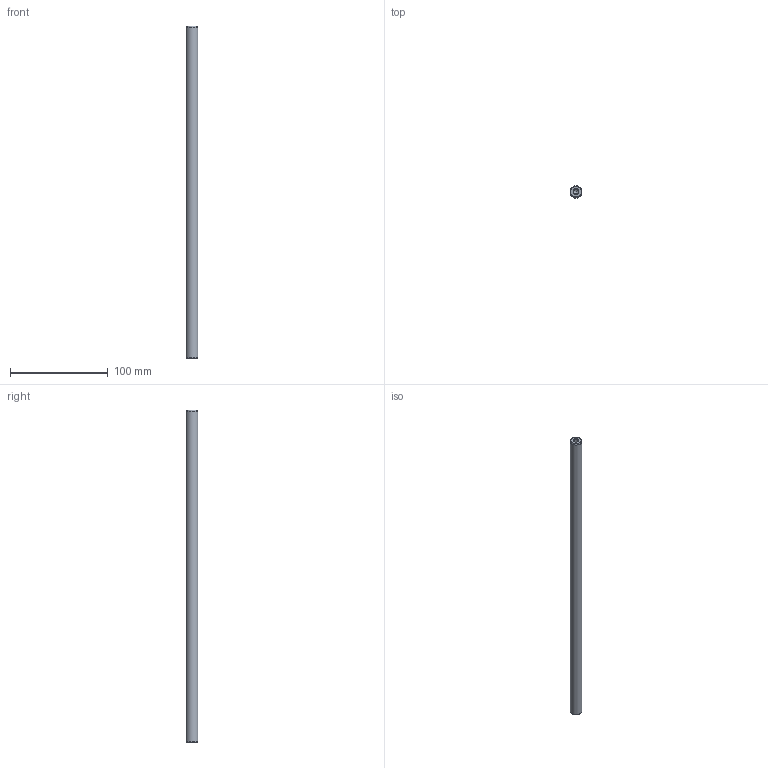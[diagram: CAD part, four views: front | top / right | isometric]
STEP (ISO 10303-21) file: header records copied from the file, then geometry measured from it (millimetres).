
FILE_DESCRIPTION( ( 'STEP AP214' ), '1' );
FILE_NAME( 'U:/Etudes/Top Solid/BIBLIO_Fournisseur/Colonnes UG/Ø12x339.step', '2004-12-22T12:34:57', ( ' ' ), ( ' ' ), 'XStep 1.0', ' ', ' ' );
FILE_SCHEMA( ( 'automotive_design' ) );
Length unit declared in the file: metre
Products named in the file (1): 1
Bounding box: 12 x 12 x 339 mm (x, y, z)
Volume: 37827.8 mm3; surface area: 13387.1 mm2
Topology: 1 solids, 1 shells, 13 faces, 27 edges, 16 vertices
Faces by surface type: cone 6, cylinder 5, plane 2
Full cylindrical faces by diameter (mm): 4.134 x2, 4.918 x2, 12 x1
Entity records: 382 total; most frequent: DIRECTION 52, CARTESIAN_POINT 40, AXIS2_PLACEMENT_3D 26, EDGE_LOOP 24, ORIENTED_EDGE 24, FACE_OUTER_BOUND 18, VERTEX_POINT 14, STYLED_ITEM 13
